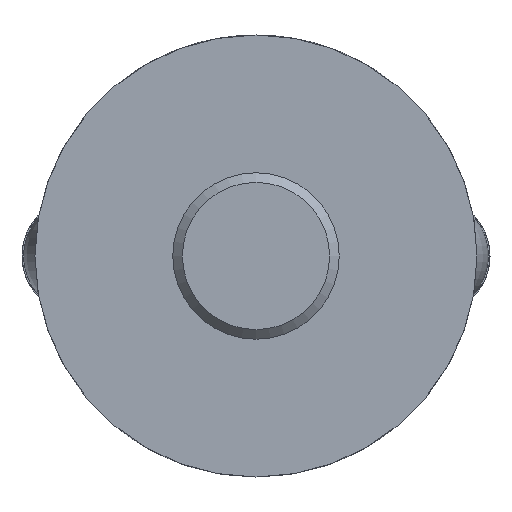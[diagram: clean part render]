
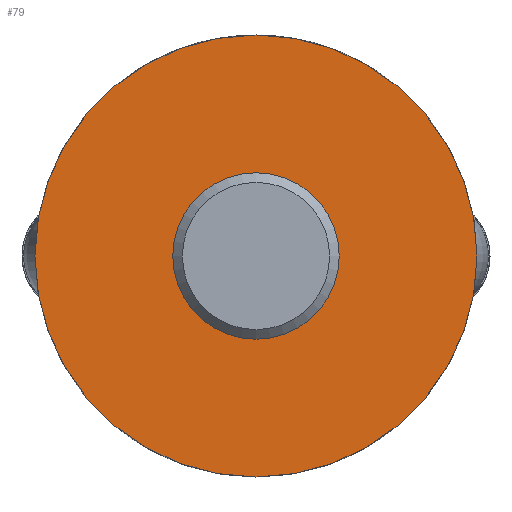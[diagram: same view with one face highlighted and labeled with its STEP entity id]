
A CAD part, front view. The second image highlights one B-rep face of the part: STEP entity #79.
In plain terms, the highlighted planar face has unit normal (0, -1, 0).
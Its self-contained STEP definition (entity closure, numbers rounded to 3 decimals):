
#79 = ADVANCED_FACE( '', ( #115, #116 ), #117, .F. );
#115 = FACE_BOUND( '', #186, .T. );
#116 = FACE_OUTER_BOUND( '', #187, .T. );
#117 = PLANE( '', #188 );
#186 = EDGE_LOOP( '', ( #276 ) );
#187 = EDGE_LOOP( '', ( #277 ) );
#188 = AXIS2_PLACEMENT_3D( '', #278, #279, #280 );
#276 = ORIENTED_EDGE( '', *, *, #464, .T. );
#277 = ORIENTED_EDGE( '', *, *, #465, .T. );
#278 = CARTESIAN_POINT( '', ( 85., 0., 0. ) );
#279 = DIRECTION( '', ( 0., 1., 0. ) );
#280 = DIRECTION( '', ( 0., 0., 1. ) );
#464 = EDGE_CURVE( '', #539, #539, #540, .T. );
#465 = EDGE_CURVE( '', #541, #541, #542, .T. );
#539 = VERTEX_POINT( '', #894 );
#540 = CIRCLE( '', #895, 32. );
#541 = VERTEX_POINT( '', #896 );
#542 = CIRCLE( '', #897, 85. );
#894 = CARTESIAN_POINT( '', ( 0., 0., 32. ) );
#895 = AXIS2_PLACEMENT_3D( '', #1246, #1247, #1248 );
#896 = CARTESIAN_POINT( '', ( 0., 0., -85. ) );
#897 = AXIS2_PLACEMENT_3D( '', #1249, #1250, #1251 );
#1246 = CARTESIAN_POINT( '', ( 0., 0., 0. ) );
#1247 = DIRECTION( '', ( 0., 1., 0. ) );
#1248 = DIRECTION( '', ( 0., 0., 1. ) );
#1249 = CARTESIAN_POINT( '', ( 0., 0., 0. ) );
#1250 = DIRECTION( '', ( 0., -1., 0. ) );
#1251 = DIRECTION( '', ( 0., 0., -1. ) );
